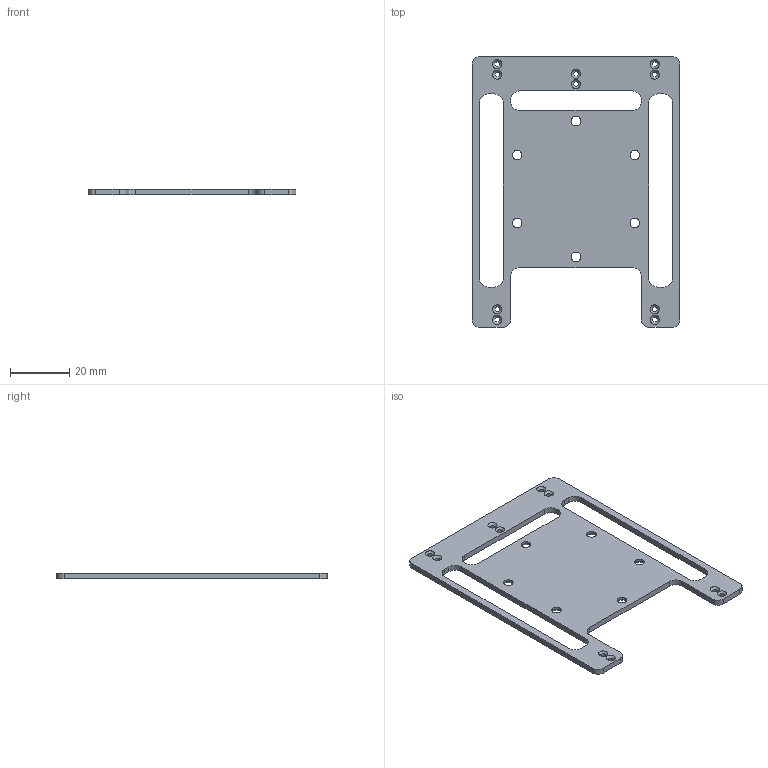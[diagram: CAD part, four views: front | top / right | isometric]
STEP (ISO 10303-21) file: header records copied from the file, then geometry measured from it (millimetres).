
FILE_DESCRIPTION(('FreeCAD Model'),'2;1');
FILE_NAME('Open CASCADE Shape Model','2025-06-23T16:27:07',(''),(''), 'Open CASCADE STEP processor 7.6','FreeCAD','Unknown');
FILE_SCHEMA(('CONFIG_CONTROL_DESIGN','SHAPE_APPEARANCE_LAYER_MIM'));
Length unit declared in the file: millimetre
Products named in the file (1): SmallCCDSupportFrameTop
Bounding box: 70 x 91 x 2 mm (x, y, z)
Volume: 8153.1 mm3; surface area: 9865.9 mm2
Topology: 1 solids, 1 shells, 74 faces, 200 edges, 128 vertices
Faces by surface type: cylinder 36, plane 22, cone 16
Full cylindrical faces by diameter (mm): 1.7 x10, 3.2 x6
Entity records: 2472 total; most frequent: DIRECTION 438, CARTESIAN_POINT 403, ORIENTED_EDGE 400, EDGE_CURVE 200, AXIS2_PLACEMENT_3D 163, VERTEX_POINT 128, FACE_BOUND 112, EDGE_LOOP 112
